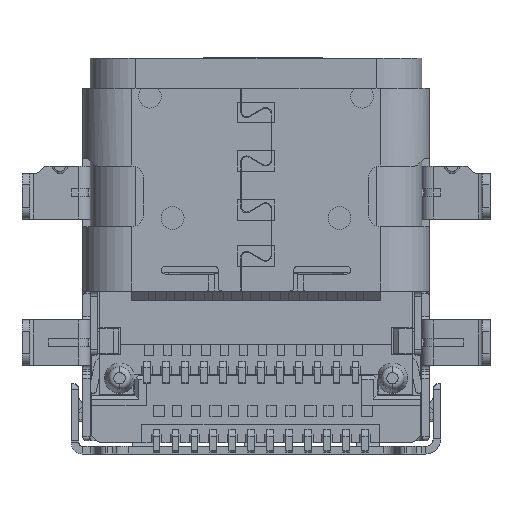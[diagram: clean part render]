
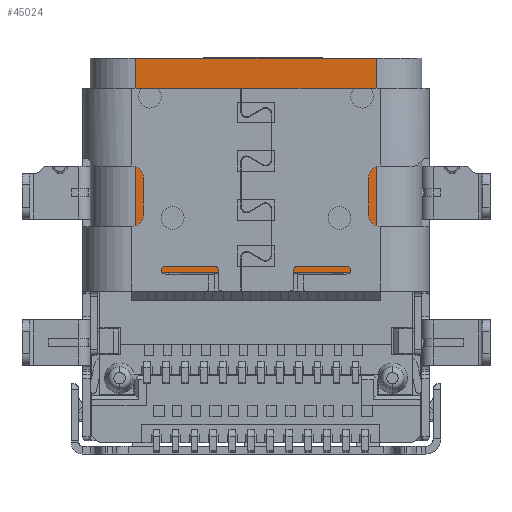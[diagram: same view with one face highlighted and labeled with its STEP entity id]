
A CAD part, front view. The second image highlights one B-rep face of the part: STEP entity #45024.
In plain terms, the highlighted planar face has unit normal (0, -1, 0).
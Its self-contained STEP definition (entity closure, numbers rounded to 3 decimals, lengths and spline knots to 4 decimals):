
#2350=DIRECTION('',(0.,0.,1.));
#2351=VECTOR('',#2350,0.3);
#2352=CARTESIAN_POINT('',(2.45,-0.68,3.1));
#2353=LINE('',#2352,#2351);
#2354=CARTESIAN_POINT('',(2.35,-0.68,3.4));
#2355=DIRECTION('',(0.,-1.,0.));
#2356=DIRECTION('',(1.,0.,0.));
#2357=AXIS2_PLACEMENT_3D('',#2354,#2355,#2356);
#2359=DIRECTION('',(-1.,0.,0.));
#2360=VECTOR('',#2359,4.7);
#2361=CARTESIAN_POINT('',(2.35,-0.68,3.5));
#2362=LINE('',#2361,#2360);
#2363=CARTESIAN_POINT('',(-2.35,-0.68,3.4));
#2364=DIRECTION('',(0.,-1.,0.));
#2365=DIRECTION('',(0.,0.,1.));
#2366=AXIS2_PLACEMENT_3D('',#2363,#2364,#2365);
#2368=DIRECTION('',(0.,0.,1.));
#2369=VECTOR('',#2368,6.05);
#2370=CARTESIAN_POINT('',(-3.17,-0.68,3.1));
#2371=LINE('',#2370,#2369);
#2372=DIRECTION('',(1.,0.,0.));
#2373=VECTOR('',#2372,6.34);
#2374=CARTESIAN_POINT('',(-3.17,-0.68,9.15));
#2375=LINE('',#2374,#2373);
#2376=DIRECTION('',(0.,0.,1.));
#2377=VECTOR('',#2376,0.3);
#2378=CARTESIAN_POINT('',(-2.45,-0.68,3.1));
#2379=LINE('',#2378,#2377);
#2572=DIRECTION('',(1.,0.,0.));
#2573=VECTOR('',#2572,0.72);
#2574=CARTESIAN_POINT('',(-3.17,-0.68,3.1));
#2575=LINE('',#2574,#2573);
#32387=DIRECTION('',(1.,0.,0.));
#32388=VECTOR('',#32387,0.72);
#32389=CARTESIAN_POINT('',(2.45,-0.68,3.1));
#32390=LINE('',#32389,#32388);
#32404=DIRECTION('',(0.,0.,1.));
#32405=VECTOR('',#32404,6.05);
#32406=CARTESIAN_POINT('',(3.17,-0.68,3.1));
#32407=LINE('',#32406,#32405);
#33349=DIRECTION('',(1.,0.,0.));
#33350=VECTOR('',#33349,0.6);
#33351=CARTESIAN_POINT('',(-2.1,-0.68,7.7372));
#33352=LINE('',#33351,#33350);
#33353=DIRECTION('',(0.,0.,-1.));
#33354=VECTOR('',#33353,1.6);
#33355=CARTESIAN_POINT('',(-1.5,-0.68,7.7372));
#33356=LINE('',#33355,#33354);
#33361=DIRECTION('',(-1.,0.,0.));
#33362=VECTOR('',#33361,0.6);
#33363=CARTESIAN_POINT('',(-1.5,-0.68,6.1372));
#33364=LINE('',#33363,#33362);
#33369=DIRECTION('',(0.,0.,1.));
#33370=VECTOR('',#33369,1.6);
#33371=CARTESIAN_POINT('',(-2.1,-0.68,6.1372));
#33372=LINE('',#33371,#33370);
#33397=DIRECTION('',(1.,0.,0.));
#33398=VECTOR('',#33397,0.6);
#33399=CARTESIAN_POINT('',(1.5,-0.68,7.7372));
#33400=LINE('',#33399,#33398);
#33401=DIRECTION('',(0.,0.,-1.));
#33402=VECTOR('',#33401,1.6);
#33403=CARTESIAN_POINT('',(2.1,-0.68,7.7372));
#33404=LINE('',#33403,#33402);
#33409=DIRECTION('',(-1.,0.,0.));
#33410=VECTOR('',#33409,0.6);
#33411=CARTESIAN_POINT('',(2.1,-0.68,6.1372));
#33412=LINE('',#33411,#33410);
#33417=DIRECTION('',(0.,0.,1.));
#33418=VECTOR('',#33417,1.6);
#33419=CARTESIAN_POINT('',(1.5,-0.68,6.1372));
#33420=LINE('',#33419,#33418);
#38969=CARTESIAN_POINT('',(-3.17,-0.68,3.1));
#38970=VERTEX_POINT('',#38969);
#38971=CARTESIAN_POINT('',(-3.17,-0.68,9.15));
#38972=VERTEX_POINT('',#38971);
#39000=CARTESIAN_POINT('',(3.17,-0.68,9.15));
#39002=VERTEX_POINT('',#39000);
#39510=CARTESIAN_POINT('',(2.45,-0.68,3.1));
#39511=VERTEX_POINT('',#39510);
#39513=CARTESIAN_POINT('',(2.45,-0.68,3.4));
#39514=VERTEX_POINT('',#39513);
#39515=CARTESIAN_POINT('',(2.35,-0.68,3.5));
#39516=VERTEX_POINT('',#39515);
#39517=CARTESIAN_POINT('',(-2.35,-0.68,3.5));
#39518=VERTEX_POINT('',#39517);
#39519=CARTESIAN_POINT('',(-2.45,-0.68,3.4));
#39520=VERTEX_POINT('',#39519);
#39521=CARTESIAN_POINT('',(-2.45,-0.68,3.1));
#39522=VERTEX_POINT('',#39521);
#39523=CARTESIAN_POINT('',(3.17,-0.68,3.1));
#39524=VERTEX_POINT('',#39523);
#39525=CARTESIAN_POINT('',(-2.1,-0.68,7.7372));
#39526=CARTESIAN_POINT('',(-1.5,-0.68,7.7372));
#39527=VERTEX_POINT('',#39525);
#39528=VERTEX_POINT('',#39526);
#39529=CARTESIAN_POINT('',(-2.1,-0.68,6.1372));
#39530=VERTEX_POINT('',#39529);
#39531=CARTESIAN_POINT('',(-1.5,-0.68,6.1372));
#39532=VERTEX_POINT('',#39531);
#39533=CARTESIAN_POINT('',(1.5,-0.68,7.7372));
#39534=CARTESIAN_POINT('',(2.1,-0.68,7.7372));
#39535=VERTEX_POINT('',#39533);
#39536=VERTEX_POINT('',#39534);
#39537=CARTESIAN_POINT('',(1.5,-0.68,6.1372));
#39538=VERTEX_POINT('',#39537);
#39539=CARTESIAN_POINT('',(2.1,-0.68,6.1372));
#39540=VERTEX_POINT('',#39539);
#44981=CARTESIAN_POINT('',(0.,-0.68,6.125));
#44982=DIRECTION('',(0.,1.,0.));
#44983=DIRECTION('',(-1.,0.,0.));
#44984=AXIS2_PLACEMENT_3D('',#44981,#44982,#44983);
#44985=PLANE('',#44984);
#44986=ORIENTED_EDGE('',*,*,#44934,.T.);
#44987=ORIENTED_EDGE('',*,*,#44946,.T.);
#44988=ORIENTED_EDGE('',*,*,#44962,.T.);
#44989=ORIENTED_EDGE('',*,*,#44972,.T.);
#44991=ORIENTED_EDGE('',*,*,#44990,.F.);
#44993=ORIENTED_EDGE('',*,*,#44992,.F.);
#44995=ORIENTED_EDGE('',*,*,#44994,.T.);
#44997=ORIENTED_EDGE('',*,*,#44996,.T.);
#44999=ORIENTED_EDGE('',*,*,#44998,.F.);
#45001=ORIENTED_EDGE('',*,*,#45000,.F.);
#45002=EDGE_LOOP('',(#44986,#44987,#44988,#44989,#44991,#44993,#44995,#44997,
#44999,#45001));
#45003=FACE_OUTER_BOUND('',#45002,.F.);
#45005=ORIENTED_EDGE('',*,*,#45004,.F.);
#45007=ORIENTED_EDGE('',*,*,#45006,.F.);
#45009=ORIENTED_EDGE('',*,*,#45008,.F.);
#45011=ORIENTED_EDGE('',*,*,#45010,.F.);
#45012=EDGE_LOOP('',(#45005,#45007,#45009,#45011));
#45013=FACE_BOUND('',#45012,.F.);
#45015=ORIENTED_EDGE('',*,*,#45014,.F.);
#45017=ORIENTED_EDGE('',*,*,#45016,.F.);
#45019=ORIENTED_EDGE('',*,*,#45018,.F.);
#45021=ORIENTED_EDGE('',*,*,#45020,.F.);
#45022=EDGE_LOOP('',(#45015,#45017,#45019,#45021));
#45023=FACE_BOUND('',#45022,.F.);
#45024=ADVANCED_FACE('',(#45003,#45013,#45023),#44985,.F.);
#2358=CIRCLE('',#2357,0.1);
#2367=CIRCLE('',#2366,0.1);
#44934=EDGE_CURVE('',#39511,#39514,#2353,.T.);
#44946=EDGE_CURVE('',#39514,#39516,#2358,.T.);
#44962=EDGE_CURVE('',#39516,#39518,#2362,.T.);
#44972=EDGE_CURVE('',#39518,#39520,#2367,.T.);
#44990=EDGE_CURVE('',#39522,#39520,#2379,.T.);
#44992=EDGE_CURVE('',#38970,#39522,#2575,.T.);
#44994=EDGE_CURVE('',#38970,#38972,#2371,.T.);
#44996=EDGE_CURVE('',#38972,#39002,#2375,.T.);
#44998=EDGE_CURVE('',#39524,#39002,#32407,.T.);
#45000=EDGE_CURVE('',#39511,#39524,#32390,.T.);
#45004=EDGE_CURVE('',#39527,#39528,#33352,.T.);
#45006=EDGE_CURVE('',#39530,#39527,#33372,.T.);
#45008=EDGE_CURVE('',#39532,#39530,#33364,.T.);
#45010=EDGE_CURVE('',#39528,#39532,#33356,.T.);
#45014=EDGE_CURVE('',#39535,#39536,#33400,.T.);
#45016=EDGE_CURVE('',#39538,#39535,#33420,.T.);
#45018=EDGE_CURVE('',#39540,#39538,#33412,.T.);
#45020=EDGE_CURVE('',#39536,#39540,#33404,.T.);
